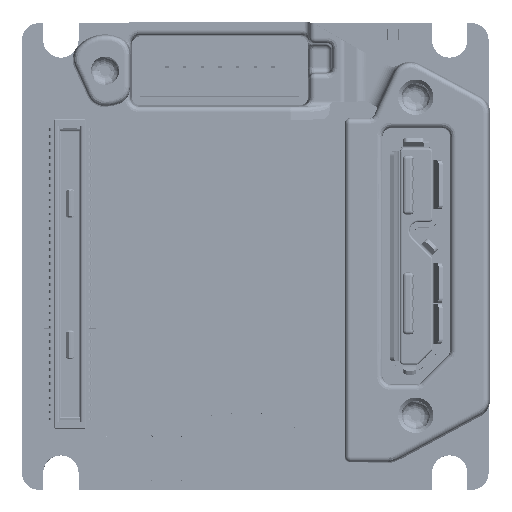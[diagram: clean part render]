
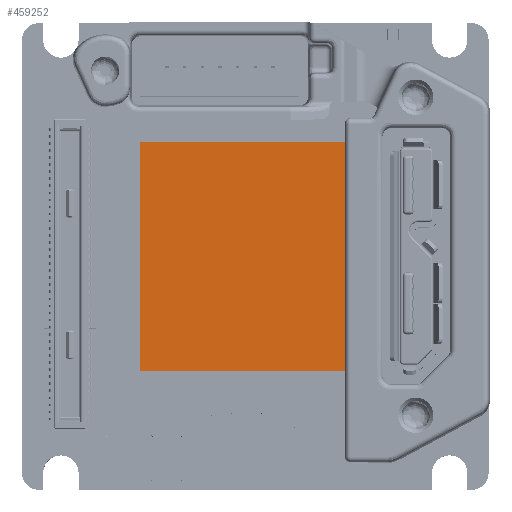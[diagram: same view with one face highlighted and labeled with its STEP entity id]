
A CAD part, top view. The second image highlights one B-rep face of the part: STEP entity #459252.
In plain terms, the highlighted planar face has unit normal (0, 0, 1).
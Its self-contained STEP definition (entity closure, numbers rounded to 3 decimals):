
#76619 = EDGE_CURVE ( 'NONE', #451783, #517430, #659691, .T. ) ;
#78444 = ORIENTED_EDGE ( 'NONE', *, *, #524034, .F. ) ;
#94426 = CARTESIAN_POINT ( 'NONE',  ( -6.5, -6.5, 6.162 ) ) ;
#124703 = VECTOR ( 'NONE', #548877, 1000. ) ;
#129815 = ORIENTED_EDGE ( 'NONE', *, *, #157327, .F. ) ;
#155643 = LINE ( 'NONE', #678271, #124703 ) ;
#157327 = EDGE_CURVE ( 'NONE', #517430, #495370, #310839, .T. ) ;
#202487 = VERTEX_POINT ( 'NONE', #281355 ) ;
#205525 = CARTESIAN_POINT ( 'NONE',  ( 6.5, -6.5, 6.162 ) ) ;
#234570 = DIRECTION ( 'NONE',  ( 0., 0., -1. ) ) ;
#254123 = CARTESIAN_POINT ( 'NONE',  ( -6.5, 6.5, 6.162 ) ) ;
#276270 = LINE ( 'NONE', #398387, #504164 ) ;
#281355 = CARTESIAN_POINT ( 'NONE',  ( 6.5, 6.5, 6.162 ) ) ;
#287633 = DIRECTION ( 'NONE',  ( 1., 0., 0. ) ) ;
#310839 = LINE ( 'NONE', #604431, #372187 ) ;
#336949 = ORIENTED_EDGE ( 'NONE', *, *, #76619, .F. ) ;
#345922 = ORIENTED_EDGE ( 'NONE', *, *, #500363, .F. ) ;
#372187 = VECTOR ( 'NONE', #543409, 1000. ) ;
#397587 = VECTOR ( 'NONE', #484154, 1000. ) ;
#398387 = CARTESIAN_POINT ( 'NONE',  ( -6.5, 6.5, 6.162 ) ) ;
#402600 = FACE_OUTER_BOUND ( 'NONE', #646481, .T. ) ;
#406379 = CARTESIAN_POINT ( 'NONE',  ( 0., 0., 6.162 ) ) ;
#451783 = VERTEX_POINT ( 'NONE', #609869 ) ;
#459252 = ADVANCED_FACE ( 'NONE', ( #402600 ), #749668, .F. ) ;
#484154 = DIRECTION ( 'NONE',  ( -1., 0., 0. ) ) ;
#495370 = VERTEX_POINT ( 'NONE', #254123 ) ;
#500363 = EDGE_CURVE ( 'NONE', #495370, #202487, #276270, .T. ) ;
#504164 = VECTOR ( 'NONE', #287633, 1000. ) ;
#517430 = VERTEX_POINT ( 'NONE', #94426 ) ;
#524034 = EDGE_CURVE ( 'NONE', #202487, #451783, #155643, .T. ) ;
#527626 = AXIS2_PLACEMENT_3D ( 'NONE', #406379, #234570, #684806 ) ;
#543409 = DIRECTION ( 'NONE',  ( 0., 1., 0. ) ) ;
#548877 = DIRECTION ( 'NONE',  ( 0., -1., 0. ) ) ;
#604431 = CARTESIAN_POINT ( 'NONE',  ( -6.5, -6.5, 6.162 ) ) ;
#609869 = CARTESIAN_POINT ( 'NONE',  ( 6.5, -6.5, 6.162 ) ) ;
#646481 = EDGE_LOOP ( 'NONE', ( #336949, #78444, #345922, #129815 ) ) ;
#659691 = LINE ( 'NONE', #205525, #397587 ) ;
#678271 = CARTESIAN_POINT ( 'NONE',  ( 6.5, 6.5, 6.162 ) ) ;
#684806 = DIRECTION ( 'NONE',  ( 0., -1., 0. ) ) ;
#749668 = PLANE ( 'NONE',  #527626 ) ;
